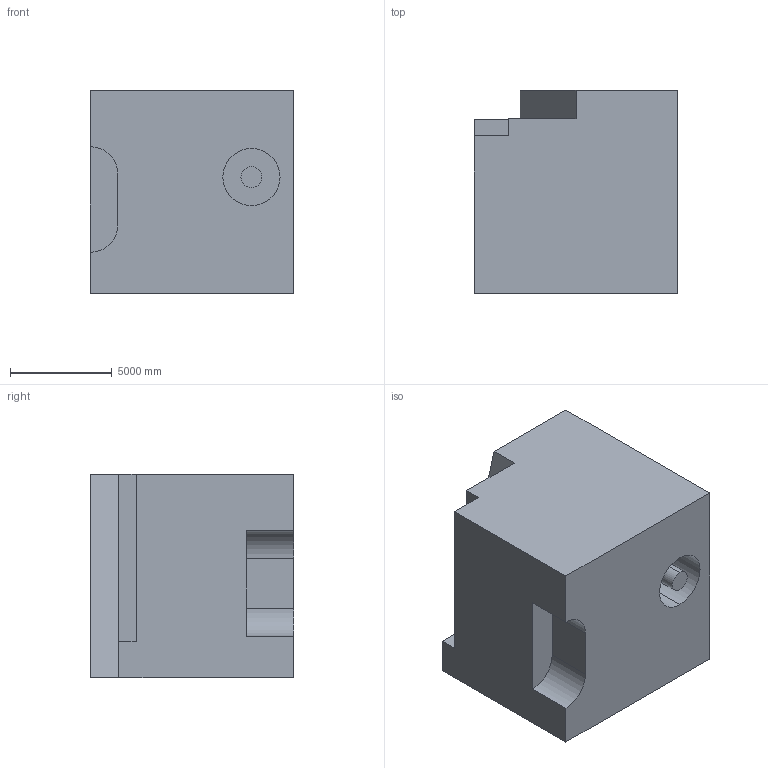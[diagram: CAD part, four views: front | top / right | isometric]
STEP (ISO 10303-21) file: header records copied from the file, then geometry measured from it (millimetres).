
FILE_DESCRIPTION (( 'STEP AP203' ), '1' );
FILE_NAME ('335.STEP', '2022-07-28T14:23:15', ( 'user' ), ( '' ), 'SwSTEP 2.0', 'SolidWorks 2021', '' );
FILE_SCHEMA (( 'CONFIG_CONTROL_DESIGN' ));
Length unit declared in the file: centimetre
Products named in the file (1): 335
Bounding box: 10000 x 10000 x 10000 mm (x, y, z)
Volume: 887411301313.8 mm3; surface area: 673337158.5 mm2
Topology: 1 solids, 1 shells, 21 faces, 51 edges, 34 vertices
Faces by surface type: plane 15, cylinder 6
Entity records: 694 total; most frequent: CARTESIAN_POINT 107, DIRECTION 107, ORIENTED_EDGE 102, EDGE_CURVE 51, VECTOR 39, LINE 39, VERTEX_POINT 34, AXIS2_PLACEMENT_3D 34
